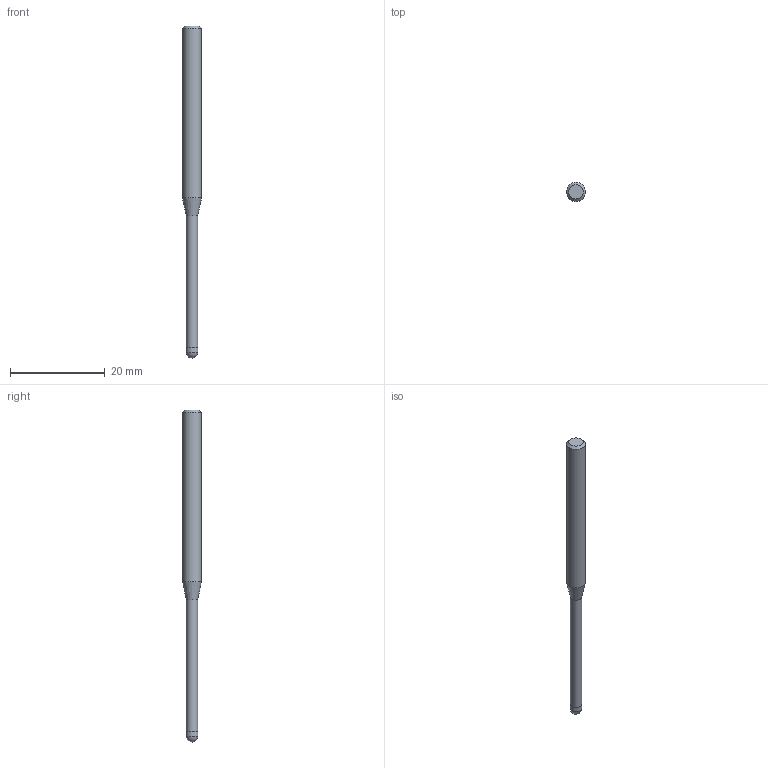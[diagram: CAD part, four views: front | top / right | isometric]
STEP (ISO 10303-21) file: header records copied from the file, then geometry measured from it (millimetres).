
FILE_DESCRIPTION((''),'2;1');
FILE_NAME('C:\Users\nsx150\AppData\Local\Temp\Mastercam 2021\3SYKECWX22\TEMP.step','2021-04-22T10:04:44',(''),(''),'STEP Write','Mastercam 2021 ... CNC Software, Inc.','');
FILE_SCHEMA(('AUTOMOTIVE_DESIGN'));
Length unit declared in the file: millimetre
Products named in the file (1): None
Bounding box: 4 x 4 x 70 mm (x, y, z)
Volume: 619.4 mm3; surface area: 739 mm2
Topology: 2 solids, 2 shells, 9 faces, 14 edges, 8 vertices
Faces by surface type: plane 3, cylinder 3, cone 2, sphere 1
Full cylindrical faces by diameter (mm): 2.4 x1, 2.5 x1, 4 x1
Entity records: 211 total; most frequent: DIRECTION 36, CARTESIAN_POINT 25, AXIS2_PLACEMENT_3D 18, ORIENTED_EDGE 14, EDGE_LOOP 14, STYLED_ITEM 12, ADVANCED_FACE 9, FACE_BOUND 8
